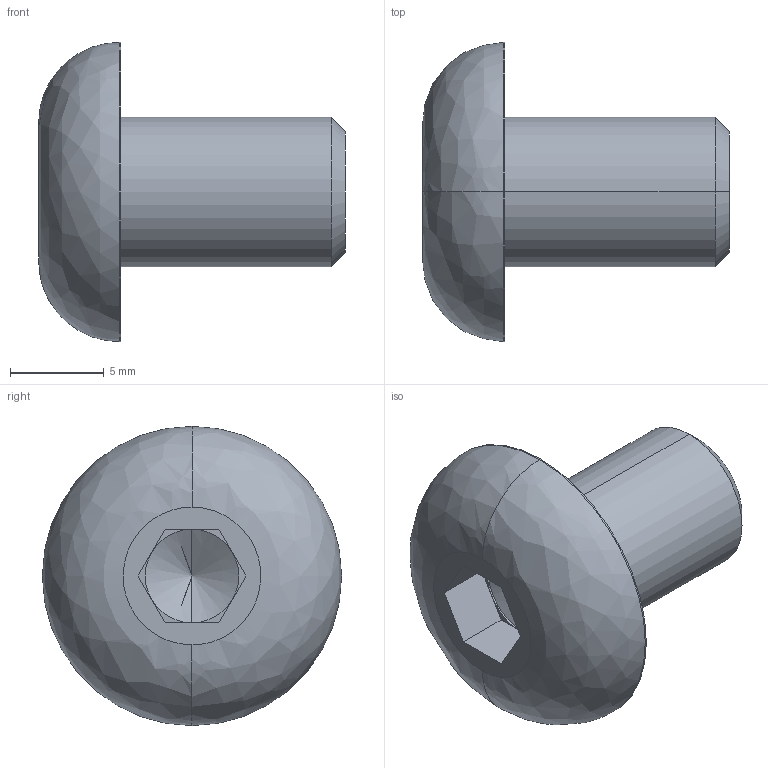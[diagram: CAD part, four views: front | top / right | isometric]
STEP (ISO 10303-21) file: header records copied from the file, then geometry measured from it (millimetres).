
FILE_DESCRIPTION (( 'STEP AP214' ), '1' );
FILE_NAME ('ISO7380_8x12.STEP', '2016-05-18T14:44:45', ( '' ), ( '' ), 'SwSTEP 2.0', 'SolidWorks 2014', '' );
FILE_SCHEMA (( 'AUTOMOTIVE_DESIGN' ));
Length unit declared in the file: millimetre
Products named in the file (1): ISO7380_8x12
Bounding box: 16.4 x 16 x 16 mm (x, y, z)
Volume: 1230.6 mm3; surface area: 865.4 mm2
Topology: 1 solids, 1 shells, 27 faces, 59 edges, 34 vertices
Faces by surface type: plane 15, cylinder 6, cone 4, bspline 2
Entity records: 771 total; most frequent: CARTESIAN_POINT 158, DIRECTION 126, ORIENTED_EDGE 114, EDGE_CURVE 57, AXIS2_PLACEMENT_3D 46, VERTEX_POINT 34, LINE 34, VECTOR 34
